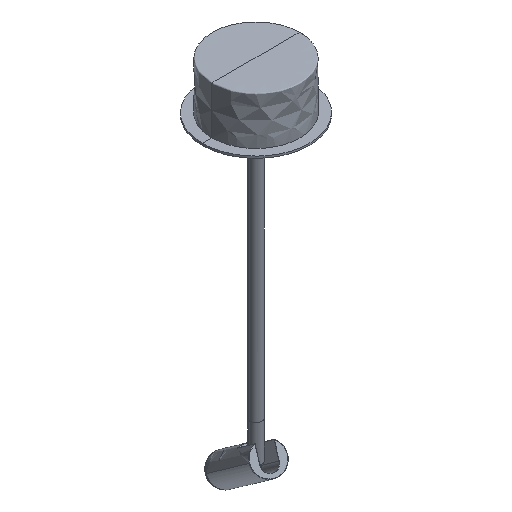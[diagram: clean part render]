
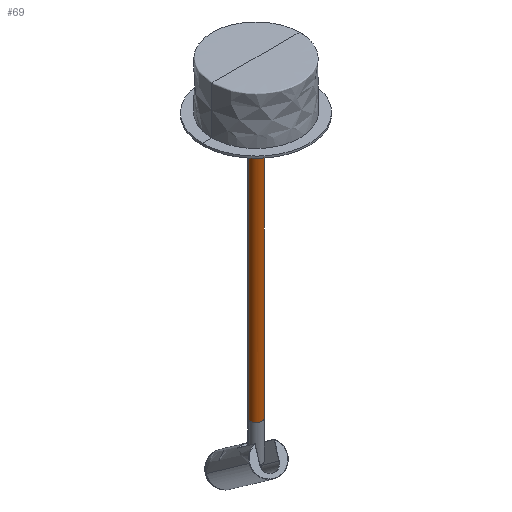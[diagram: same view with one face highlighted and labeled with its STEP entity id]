
A CAD part, isometric view. The second image highlights one B-rep face of the part: STEP entity #69.
In plain terms, the highlighted free-form (B-spline) face has degree [2, 1] with [5, 2] control points.
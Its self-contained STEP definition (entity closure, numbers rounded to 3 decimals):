
#17=B_SPLINE_SURFACE_WITH_KNOTS('',1,1,((#2285,#2286),(#2287,#2288)),
 .UNSPECIFIED.,.F.,.F.,.F.,(2,2),(2,2),(-6.12,6.12),(-12.12,0.12),
 .UNSPECIFIED.);
#18=B_SPLINE_SURFACE_WITH_KNOTS('',1,1,((#2289,#2290),(#2291,#2292)),
 .UNSPECIFIED.,.F.,.F.,.F.,(2,2),(2,2),(-12.12,0.12),(-6.12,6.12),
 .UNSPECIFIED.);
#69=ADVANCED_FACE('',(#140),#1849,.T.);
#140=FACE_OUTER_BOUND('',#211,.T.);
#211=EDGE_LOOP('',(#316,#317,#318,#319));
#316=ORIENTED_EDGE('',*,*,#1479,.F.);
#317=ORIENTED_EDGE('',*,*,#1484,.F.);
#318=ORIENTED_EDGE('',*,*,#1482,.F.);
#319=ORIENTED_EDGE('',*,*,#1483,.F.);
#578=PCURVE('',#17,#848);
#581=PCURVE('',#18,#851);
#582=PCURVE('',#1848,#852);
#584=PCURVE('',#1848,#854);
#586=PCURVE('',#1849,#856);
#587=PCURVE('',#1849,#857);
#588=PCURVE('',#1849,#858);
#589=PCURVE('',#1849,#859);
#848=DEFINITIONAL_REPRESENTATION('',(#1609),#4206);
#851=DEFINITIONAL_REPRESENTATION('',(#1615),#4206);
#852=DEFINITIONAL_REPRESENTATION('',(#1124),#4206);
#854=DEFINITIONAL_REPRESENTATION('',(#1127),#4206);
#856=DEFINITIONAL_REPRESENTATION('',(#1129),#4206);
#857=DEFINITIONAL_REPRESENTATION('',(#1130),#4206);
#858=DEFINITIONAL_REPRESENTATION('',(#1131),#4206);
#859=DEFINITIONAL_REPRESENTATION('',(#1132),#4206);
#1124=B_SPLINE_CURVE_WITH_KNOTS('',1,(#2359,#2360),.UNSPECIFIED.,.F.,.F.,
(2,2),(0.,243.736),.UNSPECIFIED.);
#1126=B_SPLINE_CURVE_WITH_KNOTS('',1,(#2363,#2364),.UNSPECIFIED.,.F.,.F.,
(2,2),(-243.736,0.),.UNSPECIFIED.);
#1127=B_SPLINE_CURVE_WITH_KNOTS('',1,(#2365,#2366),.UNSPECIFIED.,.F.,.F.,
(2,2),(-243.736,0.),.UNSPECIFIED.);
#1129=B_SPLINE_CURVE_WITH_KNOTS('',1,(#2369,#2370),.UNSPECIFIED.,.F.,.F.,
(2,2),(0.,18.85),.UNSPECIFIED.);
#1130=B_SPLINE_CURVE_WITH_KNOTS('',1,(#2371,#2372),.UNSPECIFIED.,.F.,.F.,
(2,2),(-243.736,0.),.UNSPECIFIED.);
#1131=B_SPLINE_CURVE_WITH_KNOTS('',1,(#2373,#2374),.UNSPECIFIED.,.F.,.F.,
(2,2),(-18.85,0.),.UNSPECIFIED.);
#1132=B_SPLINE_CURVE_WITH_KNOTS('',1,(#2375,#2376),.UNSPECIFIED.,.F.,.F.,
(2,2),(0.,243.736),.UNSPECIFIED.);
#1344=SURFACE_CURVE('',#1608,(#578,#586),.PCURVE_S1.);
#1347=SURFACE_CURVE('',#1614,(#581,#588),.PCURVE_S1.);
#1348=SURFACE_CURVE('',#1616,(#582,#589),.PCURVE_S1.);
#1349=SURFACE_CURVE('',#1126,(#584,#587),.PCURVE_S1.);
#1479=EDGE_CURVE('',#1769,#1771,#1344,.T.);
#1482=EDGE_CURVE('',#1772,#1770,#1347,.T.);
#1483=EDGE_CURVE('',#1771,#1772,#1348,.T.);
#1484=EDGE_CURVE('',#1770,#1769,#1349,.T.);
#1608=(
BOUNDED_CURVE()
B_SPLINE_CURVE(2,(#2317,#2318,#2319,#2320,#2321),.UNSPECIFIED.,.F.,.F.)
B_SPLINE_CURVE_WITH_KNOTS((3,2,3),(0.,9.425,18.85),
 .UNSPECIFIED.)
CURVE()
GEOMETRIC_REPRESENTATION_ITEM()
RATIONAL_B_SPLINE_CURVE((1.,0.707,1.,0.707,1.))
REPRESENTATION_ITEM('')
);
#1609=(
BOUNDED_CURVE()
B_SPLINE_CURVE(2,(#2322,#2323,#2324,#2325,#2326),.UNSPECIFIED.,.F.,.F.)
B_SPLINE_CURVE_WITH_KNOTS((3,2,3),(0.,9.425,18.85),
 .UNSPECIFIED.)
CURVE()
GEOMETRIC_REPRESENTATION_ITEM()
RATIONAL_B_SPLINE_CURVE((1.,0.707,1.,0.707,1.))
REPRESENTATION_ITEM('')
);
#1614=(
BOUNDED_CURVE()
B_SPLINE_CURVE(2,(#2347,#2348,#2349,#2350,#2351),.UNSPECIFIED.,.F.,.F.)
B_SPLINE_CURVE_WITH_KNOTS((3,2,3),(-18.85,-9.425,
0.),.UNSPECIFIED.)
CURVE()
GEOMETRIC_REPRESENTATION_ITEM()
RATIONAL_B_SPLINE_CURVE((1.,0.707,1.,0.707,1.))
REPRESENTATION_ITEM('')
);
#1615=(
BOUNDED_CURVE()
B_SPLINE_CURVE(2,(#2352,#2353,#2354,#2355,#2356),.UNSPECIFIED.,.F.,.F.)
B_SPLINE_CURVE_WITH_KNOTS((3,2,3),(-18.85,-9.425,
0.),.UNSPECIFIED.)
CURVE()
GEOMETRIC_REPRESENTATION_ITEM()
RATIONAL_B_SPLINE_CURVE((1.,0.707,1.,0.707,1.))
REPRESENTATION_ITEM('')
);
#1616=(
BOUNDED_CURVE()
B_SPLINE_CURVE(1,(#2357,#2358),.UNSPECIFIED.,.F.,.F.)
B_SPLINE_CURVE_WITH_KNOTS((2,2),(0.,243.736),.UNSPECIFIED.)
CURVE()
GEOMETRIC_REPRESENTATION_ITEM()
RATIONAL_B_SPLINE_CURVE((1.,1.))
REPRESENTATION_ITEM('')
);
#1769=VERTEX_POINT('',#2313);
#1770=VERTEX_POINT('',#2314);
#1771=VERTEX_POINT('',#2315);
#1772=VERTEX_POINT('',#2316);
#1848=(
BOUNDED_SURFACE()
B_SPLINE_SURFACE(2,1,((#2293,#2294),(#2295,#2296),(#2297,#2298),(#2299,
#2300),(#2301,#2302)),.UNSPECIFIED.,.F.,.F.,.F.)
B_SPLINE_SURFACE_WITH_KNOTS((3,2,3),(2,2),(-37.699,-28.274,
-18.85),(0.,243.736),.UNSPECIFIED.)
GEOMETRIC_REPRESENTATION_ITEM()
RATIONAL_B_SPLINE_SURFACE(((1.,1.),(0.707,0.707),
(1.,1.),(0.707,0.707),(1.,1.)))
REPRESENTATION_ITEM('')
SURFACE()
);
#1849=(
BOUNDED_SURFACE()
B_SPLINE_SURFACE(2,1,((#2303,#2304),(#2305,#2306),(#2307,#2308),(#2309,
#2310),(#2311,#2312)),.UNSPECIFIED.,.F.,.F.,.F.)
B_SPLINE_SURFACE_WITH_KNOTS((3,2,3),(2,2),(-18.85,-9.425,
0.),(0.,243.736),.UNSPECIFIED.)
GEOMETRIC_REPRESENTATION_ITEM()
RATIONAL_B_SPLINE_SURFACE(((1.,1.),(0.707,0.707),
(1.,1.),(0.707,0.707),(1.,1.)))
REPRESENTATION_ITEM('')
SURFACE()
);
#2285=CARTESIAN_POINT('',(1372.396,313.179,142.566));
#2286=CARTESIAN_POINT('',(1360.977,318.125,142.566));
#2287=CARTESIAN_POINT('',(1377.342,324.598,142.566));
#2288=CARTESIAN_POINT('',(1365.923,329.544,142.566));
#2289=CARTESIAN_POINT('',(1372.396,313.179,-163.071));
#2290=CARTESIAN_POINT('',(1377.342,324.598,-163.071));
#2291=CARTESIAN_POINT('',(1360.977,318.125,-163.071));
#2292=CARTESIAN_POINT('',(1365.923,329.544,-163.071));
#2293=CARTESIAN_POINT('',(1363.562,323.786,142.566));
#2294=CARTESIAN_POINT('',(1363.562,323.786,-163.071));
#2295=CARTESIAN_POINT('',(1365.986,329.383,142.566));
#2296=CARTESIAN_POINT('',(1365.986,329.383,-163.071));
#2297=CARTESIAN_POINT('',(1371.584,326.959,142.566));
#2298=CARTESIAN_POINT('',(1371.584,326.959,-163.071));
#2299=CARTESIAN_POINT('',(1377.181,324.534,142.566));
#2300=CARTESIAN_POINT('',(1377.181,324.534,-163.071));
#2301=CARTESIAN_POINT('',(1374.757,318.937,142.566));
#2302=CARTESIAN_POINT('',(1374.757,318.937,-163.071));
#2303=CARTESIAN_POINT('',(1374.757,318.937,142.566));
#2304=CARTESIAN_POINT('',(1374.757,318.937,-163.071));
#2305=CARTESIAN_POINT('',(1372.333,313.339,142.566));
#2306=CARTESIAN_POINT('',(1372.333,313.339,-163.071));
#2307=CARTESIAN_POINT('',(1366.735,315.764,142.566));
#2308=CARTESIAN_POINT('',(1366.735,315.764,-163.071));
#2309=CARTESIAN_POINT('',(1361.138,318.188,142.566));
#2310=CARTESIAN_POINT('',(1361.138,318.188,-163.071));
#2311=CARTESIAN_POINT('',(1363.562,323.786,142.566));
#2312=CARTESIAN_POINT('',(1363.562,323.786,-163.071));
#2313=CARTESIAN_POINT('',(1363.562,323.786,142.566));
#2314=CARTESIAN_POINT('',(1363.562,323.786,-163.071));
#2315=CARTESIAN_POINT('',(1374.757,318.937,142.566));
#2316=CARTESIAN_POINT('',(1374.757,318.937,-163.071));
#2317=CARTESIAN_POINT('',(1363.562,323.786,142.566));
#2318=CARTESIAN_POINT('',(1361.138,318.188,142.566));
#2319=CARTESIAN_POINT('',(1366.735,315.764,142.566));
#2320=CARTESIAN_POINT('',(1372.333,313.339,142.566));
#2321=CARTESIAN_POINT('',(1374.757,318.937,142.566));
#2322=CARTESIAN_POINT('',(0.,0.));
#2323=CARTESIAN_POINT('',(-6.,0.));
#2324=CARTESIAN_POINT('',(-6.,-6.));
#2325=CARTESIAN_POINT('',(-6.,-12.));
#2326=CARTESIAN_POINT('',(0.,-12.));
#2347=CARTESIAN_POINT('',(1374.757,318.937,-163.071));
#2348=CARTESIAN_POINT('',(1372.333,313.339,-163.071));
#2349=CARTESIAN_POINT('',(1366.735,315.764,-163.071));
#2350=CARTESIAN_POINT('',(1361.138,318.188,-163.071));
#2351=CARTESIAN_POINT('',(1363.562,323.786,-163.071));
#2352=CARTESIAN_POINT('',(-12.,0.));
#2353=CARTESIAN_POINT('',(-12.,-6.));
#2354=CARTESIAN_POINT('',(-6.,-6.));
#2355=CARTESIAN_POINT('',(0.,-6.));
#2356=CARTESIAN_POINT('',(0.,0.));
#2357=CARTESIAN_POINT('',(1374.757,318.937,142.566));
#2358=CARTESIAN_POINT('',(1374.757,318.937,-163.071));
#2359=CARTESIAN_POINT('',(-18.85,0.));
#2360=CARTESIAN_POINT('',(-18.85,243.736));
#2363=CARTESIAN_POINT('',(1363.562,323.786,-163.071));
#2364=CARTESIAN_POINT('',(1363.562,323.786,142.566));
#2365=CARTESIAN_POINT('',(-37.699,243.736));
#2366=CARTESIAN_POINT('',(-37.699,0.));
#2369=CARTESIAN_POINT('',(0.,0.));
#2370=CARTESIAN_POINT('',(-18.85,0.));
#2371=CARTESIAN_POINT('',(0.,243.736));
#2372=CARTESIAN_POINT('',(0.,0.));
#2373=CARTESIAN_POINT('',(-18.85,243.736));
#2374=CARTESIAN_POINT('',(0.,243.736));
#2375=CARTESIAN_POINT('',(-18.85,0.));
#2376=CARTESIAN_POINT('',(-18.85,243.736));
#4206=(
GEOMETRIC_REPRESENTATION_CONTEXT(2)
PARAMETRIC_REPRESENTATION_CONTEXT()
REPRESENTATION_CONTEXT('pspace','')
);
